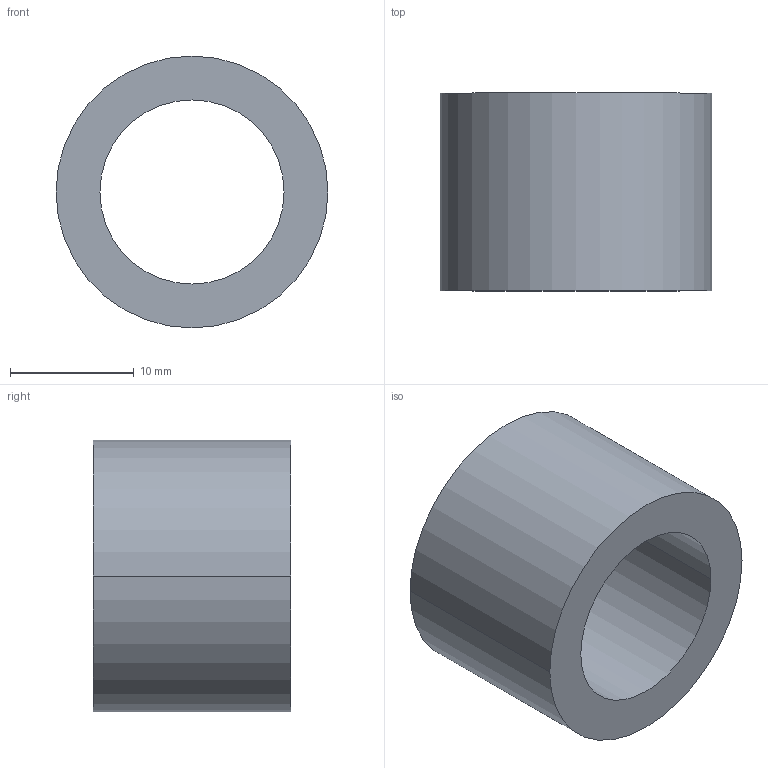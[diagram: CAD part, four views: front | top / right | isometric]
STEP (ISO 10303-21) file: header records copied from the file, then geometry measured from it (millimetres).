
FILE_DESCRIPTION (( 'STEP AP203' ), '1' );
FILE_NAME ('30800.WPP22F14.9.step', '2019-01-23T22:44:46', ( '' ), ( '' ), 'SwSTEP 2.0', 'SolidWorks 2017', '' );
FILE_SCHEMA (( 'CONFIG_CONTROL_DESIGN' ));
Length unit declared in the file: millimetre
Products named in the file (1): 30800.WPP22F14.9
Bounding box: 22 x 16 x 22 mm (x, y, z)
Volume: 3249.7 mm3; surface area: 2227.9 mm2
Topology: 1 solids, 1 shells, 8 faces, 16 edges, 10 vertices
Faces by surface type: cylinder 4, torus 2, plane 2
Entity records: 297 total; most frequent: DIRECTION 46, CARTESIAN_POINT 35, ORIENTED_EDGE 32, AXIS2_PLACEMENT_3D 21, EDGE_CURVE 16, CIRCLE 12, EDGE_LOOP 10, VERTEX_POINT 10
